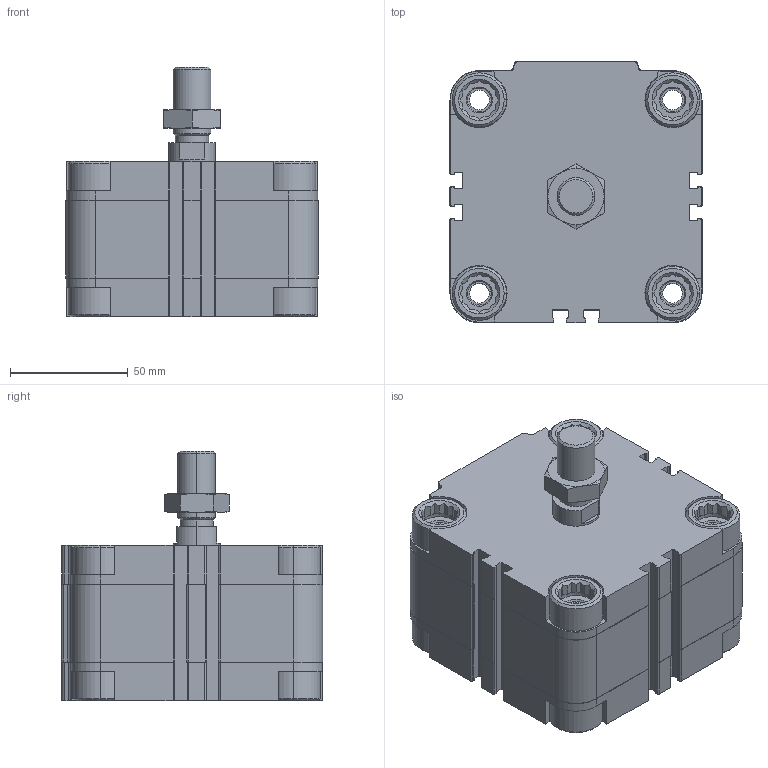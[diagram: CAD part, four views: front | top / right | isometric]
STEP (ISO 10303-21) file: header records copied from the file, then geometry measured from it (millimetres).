
FILE_DESCRIPTION (( 'STEP AP203' ), '1' );
FILE_NAME ('CDVU80-10.STEP', '2020-03-19T11:39:16', ( '' ), ( '' ), 'SwSTEP 2.0', 'SolidWorks 2019', '' );
FILE_SCHEMA (( 'CONFIG_CONTROL_DESIGN' ));
Length unit declared in the file: millimetre
Products named in the file (1): CDVU80-10
Bounding box: 107 x 111 x 106 mm (x, y, z)
Volume: 671728.2 mm3; surface area: 107647.1 mm2
Topology: 3 solids, 3 shells, 675 faces, 1816 edges, 1190 vertices
Faces by surface type: plane 397, cylinder 208, cone 70
Entity records: 21723 total; most frequent: CARTESIAN_POINT 4642, ORIENTED_EDGE 3624, DIRECTION 3460, EDGE_CURVE 1812, VERTEX_POINT 1190, AXIS2_PLACEMENT_3D 1176, LINE 1108, VECTOR 1108
